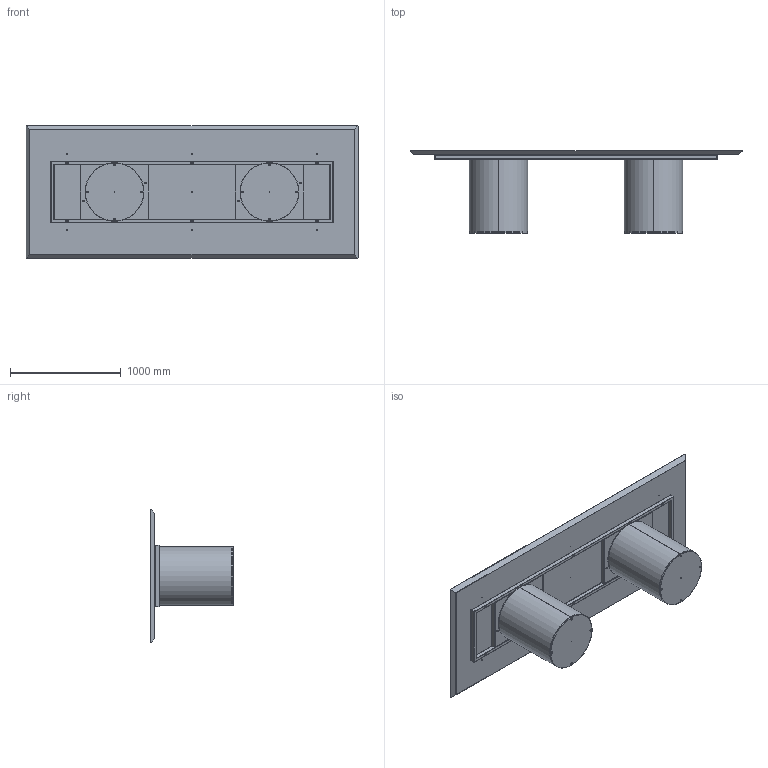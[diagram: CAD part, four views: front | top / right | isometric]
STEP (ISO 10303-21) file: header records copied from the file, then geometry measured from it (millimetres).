
FILE_DESCRIPTION (( 'STEP AP203' ), '1' );
FILE_NAME ('CI24W.STEP', '2024-08-08T07:09:54', ( '' ), ( '' ), 'SwSTEP 2.0', 'SolidWorks 2022', '' );
FILE_SCHEMA (( 'CONFIG_CONTROL_DESIGN' ));
Length unit declared in the file: millimetre
Products named in the file (12): TTAV03-06-TELAIO UNIVERSALE X TAVOLI 300-340cm; M8xXXmm_hex_M8X20mm; TTAV03_02-06-VASSOIO IRRIGIDIMENTO TELAIO UNIVERSALE RETTANGOLARE; rondella M8_8X24; C2B000000_01-00-struttura cilindro D.530mm; COLLO TELAIO UNIVERSALE TTAV03 CON FERRAMENTA_MTG TOP LEGNO-MARMO-KING; TTAV03_01-06-RING TUBO TELAIO UNIVERSALE X TAVOLI 300-340cm; M8xXXmm_M8x55mm; C2B000000_02-01-ZAVORRA IN FERRO D.530mm; CI24W; W2XCMXX-00-Piani Rettangolari in legno_3000 x 1200; C2B000000-03-CILINDRO BASE D.530mm_Normale
Assembly tree (26 placements, depth 4):
  CI24W
    C2B000000-03-CILINDRO BASE D.530mm_Normale  x2
      C2B000000_01-00-struttura cilindro D.530mm
      C2B000000_02-01-ZAVORRA IN FERRO D.530mm
      M8xXXmm_hex_M8X20mm
    COLLO TELAIO UNIVERSALE TTAV03 CON FERRAMENTA_MTG TOP LEGNO-MARMO-KING
      TTAV03-06-TELAIO UNIVERSALE X TAVOLI 300-340cm
        TTAV03_01-06-RING TUBO TELAIO UNIVERSALE X TAVOLI 300-340cm
        TTAV03_02-06-VASSOIO IRRIGIDIMENTO TELAIO UNIVERSALE RETTANGOLARE  x2
      rondella M8_8X24  x6
      M8xXXmm_M8x55mm  x6
    W2XCMXX-00-Piani Rettangolari in legno_3000 x 1200
Bounding box: 3000 x 748 x 1200 mm (x, y, z)
Volume: 146328128.9 mm3; surface area: 16422755.3 mm2
Topology: 34 solids, 34 shells, 1244 faces, 2854 edges, 1631 vertices
Faces by surface type: plane 514, cylinder 406, cone 200, torus 88, sphere 36
Entity records: 16955 total; most frequent: DIRECTION 2815, CARTESIAN_POINT 2668, ORIENTED_EDGE 2464, EDGE_CURVE 1232, AXIS2_PLACEMENT_3D 1061, VERTEX_POINT 748, LINE 693, VECTOR 693
